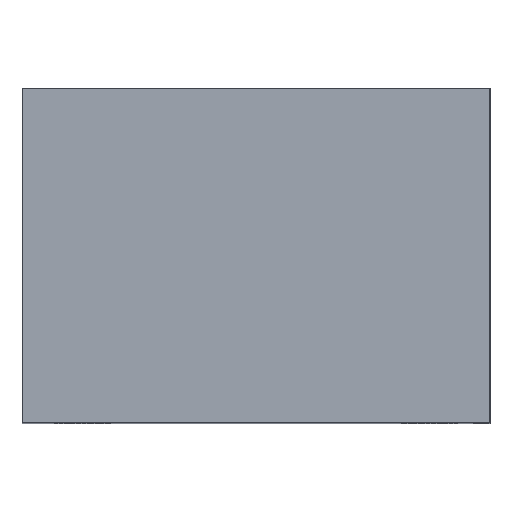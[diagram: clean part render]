
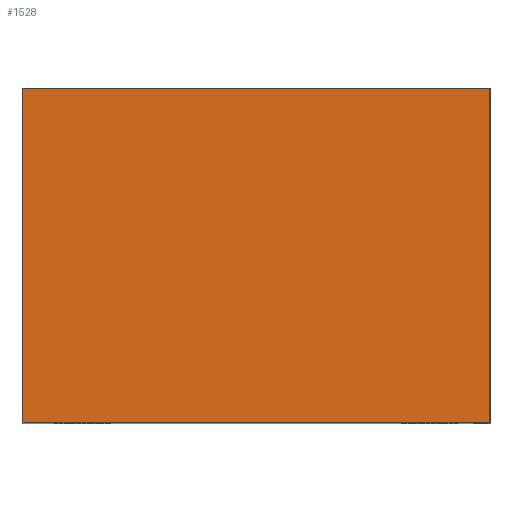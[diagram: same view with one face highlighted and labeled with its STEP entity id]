
A CAD part, top view. The second image highlights one B-rep face of the part: STEP entity #1528.
In plain terms, the highlighted planar face has unit normal (0, 0, 1).
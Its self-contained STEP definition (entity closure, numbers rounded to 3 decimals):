
#1398=CARTESIAN_POINT('',(17.49,-12.49,41.5));
#1399=VERTEX_POINT('',#1398);
#1400=CARTESIAN_POINT('',(-17.49,-12.49,41.5));
#1401=VERTEX_POINT('',#1400);
#1402=CARTESIAN_POINT('',(17.49,-12.49,41.5));
#1403=DIRECTION('',(-1.0,0.0,0.0));
#1404=VECTOR('',#1403,34.98);
#1405=LINE('',#1402,#1404);
#1406=EDGE_CURVE('',#1399,#1401,#1405,.T.);
#1438=CARTESIAN_POINT('',(-17.49,12.49,41.5));
#1439=VERTEX_POINT('',#1438);
#1440=CARTESIAN_POINT('',(-17.49,-12.49,41.5));
#1441=DIRECTION('',(0.0,1.0,0.0));
#1442=VECTOR('',#1441,24.98);
#1443=LINE('',#1440,#1442);
#1444=EDGE_CURVE('',#1401,#1439,#1443,.T.);
#1469=CARTESIAN_POINT('',(17.49,12.49,41.5));
#1470=VERTEX_POINT('',#1469);
#1471=CARTESIAN_POINT('',(-17.49,12.49,41.5));
#1472=DIRECTION('',(1.0,0.0,0.0));
#1473=VECTOR('',#1472,34.98);
#1474=LINE('',#1471,#1473);
#1475=EDGE_CURVE('',#1439,#1470,#1474,.T.);
#1500=CARTESIAN_POINT('',(17.49,12.49,41.5));
#1501=DIRECTION('',(0.0,-1.0,0.0));
#1502=VECTOR('',#1501,24.98);
#1503=LINE('',#1500,#1502);
#1504=EDGE_CURVE('',#1470,#1399,#1503,.T.);
#1517=CARTESIAN_POINT('',(0.,0.,41.5));
#1518=DIRECTION('',(0.0,0.0,1.0));
#1519=DIRECTION('',(1.0,0.0,0.0));
#1520=AXIS2_PLACEMENT_3D('',#1517,#1518,#1519);
#1521=PLANE('',#1520);
#1522=ORIENTED_EDGE('',*,*,#1406,.F.);
#1523=ORIENTED_EDGE('',*,*,#1504,.F.);
#1524=ORIENTED_EDGE('',*,*,#1475,.F.);
#1525=ORIENTED_EDGE('',*,*,#1444,.F.);
#1526=EDGE_LOOP('',(#1522,#1523,#1524,#1525));
#1527=FACE_OUTER_BOUND('',#1526,.T.);
#1528=ADVANCED_FACE('',(#1527),#1521,.T.);
